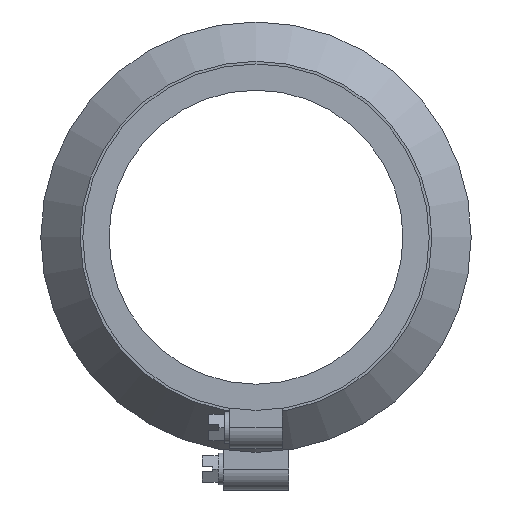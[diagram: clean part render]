
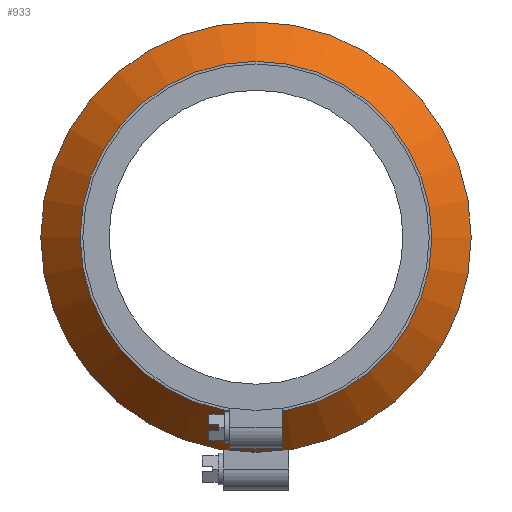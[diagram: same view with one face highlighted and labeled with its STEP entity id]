
A CAD part, left-side view. The second image highlights one B-rep face of the part: STEP entity #933.
In plain terms, the highlighted conical face has half-angle 43.121 degrees and reference radius 59.128 mm.
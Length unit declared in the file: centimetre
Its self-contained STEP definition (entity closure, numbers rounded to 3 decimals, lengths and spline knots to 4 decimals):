
#279=CONICAL_SURFACE('',#996,5.9128,0.753);
#301=VERTEX_POINT('',#1328);
#302=VERTEX_POINT('',#1331);
#385=CIRCLE('',#995,5.3182);
#386=CIRCLE('',#997,6.5075);
#417=EDGE_CURVE('',#301,#301,#385,.T.);
#418=EDGE_CURVE('',#302,#302,#386,.T.);
#537=ORIENTED_EDGE('',*,*,#418,.F.);
#538=ORIENTED_EDGE('',*,*,#417,.T.);
#769=EDGE_LOOP('',(#537));
#770=EDGE_LOOP('',(#538));
#853=FACE_BOUND('',#769,.T.);
#854=FACE_BOUND('',#770,.T.);
#933=ADVANCED_FACE('',(#853,#854),#279,.T.);
#995=AXIS2_PLACEMENT_3D('',#1327,#1095,#1096);
#996=AXIS2_PLACEMENT_3D('',#1329,#1097,#1098);
#997=AXIS2_PLACEMENT_3D('',#1330,#1099,#1100);
#1095=DIRECTION('',(1.,0.,0.));
#1096=DIRECTION('',(0.,5.318,0.));
#1097=DIRECTION('',(1.,0.,0.));
#1098=DIRECTION('',(0.,5.913,0.));
#1099=DIRECTION('',(1.,0.,0.));
#1100=DIRECTION('',(0.,6.507,0.));
#1327=CARTESIAN_POINT('',(4.1275,0.,0.));
#1328=CARTESIAN_POINT('',(4.1275,5.3182,0.));
#1329=CARTESIAN_POINT('',(4.7625,0.,0.));
#1330=CARTESIAN_POINT('',(5.3975,0.,0.));
#1331=CARTESIAN_POINT('',(5.3975,6.5075,0.));
